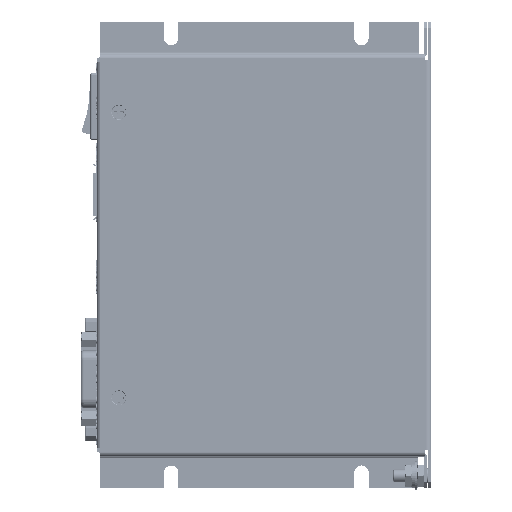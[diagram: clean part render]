
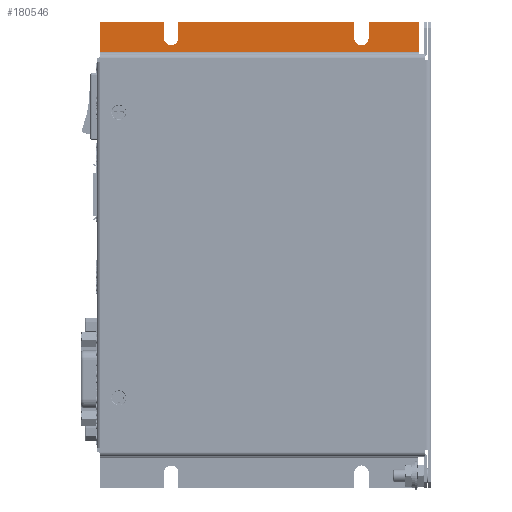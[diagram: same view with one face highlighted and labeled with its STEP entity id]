
A CAD part, top view. The second image highlights one B-rep face of the part: STEP entity #180546.
In plain terms, the highlighted planar face has unit normal (0, 0, 1).
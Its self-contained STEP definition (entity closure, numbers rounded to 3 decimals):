
#2835 = VECTOR ( 'NONE', #116361, 1000. ) ;
#9651 = LINE ( 'NONE', #76972, #49892 ) ;
#9965 = CARTESIAN_POINT ( 'NONE',  ( 23.503, 68.5, 1. ) ) ;
#10461 = CARTESIAN_POINT ( 'NONE',  ( 81.253, 73.5, 1. ) ) ;
#11495 = VERTEX_POINT ( 'NONE', #138670 ) ;
#11603 = VECTOR ( 'NONE', #56869, 1000. ) ;
#13659 = VERTEX_POINT ( 'NONE', #125975 ) ;
#13765 = DIRECTION ( 'NONE',  ( 0., 1., 0. ) ) ;
#13912 = EDGE_CURVE ( 'NONE', #20342, #58134, #177097, .T. ) ;
#15426 = DIRECTION ( 'NONE',  ( -1., 0., 0. ) ) ;
#17977 = ORIENTED_EDGE ( 'NONE', *, *, #25165, .F. ) ;
#18363 = CARTESIAN_POINT ( 'NONE',  ( 101.503, 73.5, 1. ) ) ;
#19349 = ORIENTED_EDGE ( 'NONE', *, *, #180053, .T. ) ;
#20342 = VERTEX_POINT ( 'NONE', #10461 ) ;
#20437 = VECTOR ( 'NONE', #45858, 1000. ) ;
#22478 = DIRECTION ( 'NONE',  ( 0., 0., -1. ) ) ;
#22976 = LINE ( 'NONE', #18363, #2835 ) ;
#25165 = EDGE_CURVE ( 'NONE', #33420, #161809, #94406, .T. ) ;
#27617 = ORIENTED_EDGE ( 'NONE', *, *, #125746, .T. ) ;
#32121 = CARTESIAN_POINT ( 'NONE',  ( 101.503, 73.5, 1. ) ) ;
#32298 = VERTEX_POINT ( 'NONE', #107120 ) ;
#32615 = ORIENTED_EDGE ( 'NONE', *, *, #53395, .T. ) ;
#33420 = VERTEX_POINT ( 'NONE', #132303 ) ;
#34247 = EDGE_CURVE ( 'NONE', #138133, #32298, #180013, .T. ) ;
#36109 = LINE ( 'NONE', #42488, #11603 ) ;
#38493 = VECTOR ( 'NONE', #130275, 1000. ) ;
#39738 = FACE_OUTER_BOUND ( 'NONE', #93717, .T. ) ;
#40093 = DIRECTION ( 'NONE',  ( -1., 0., 0. ) ) ;
#42488 = CARTESIAN_POINT ( 'NONE',  ( 21.253, 68.5, 1. ) ) ;
#44384 = EDGE_CURVE ( 'NONE', #169499, #13659, #9651, .T. ) ;
#45255 = CARTESIAN_POINT ( 'NONE',  ( 1.003, 73.5, 1. ) ) ;
#45715 = VERTEX_POINT ( 'NONE', #184245 ) ;
#45858 = DIRECTION ( 'NONE',  ( 0., -1., 0. ) ) ;
#49892 = VECTOR ( 'NONE', #176984, 1000. ) ;
#53395 = EDGE_CURVE ( 'NONE', #45715, #20342, #109362, .T. ) ;
#54538 = ORIENTED_EDGE ( 'NONE', *, *, #44384, .T. ) ;
#56869 = DIRECTION ( 'NONE',  ( 0., 1., 0. ) ) ;
#58134 = VERTEX_POINT ( 'NONE', #113948 ) ;
#59054 = DIRECTION ( 'NONE',  ( 0., 0., -1. ) ) ;
#62509 = EDGE_CURVE ( 'NONE', #77962, #11495, #179544, .T. ) ;
#64208 = AXIS2_PLACEMENT_3D ( 'NONE', #72850, #59054, #15426 ) ;
#65472 = EDGE_CURVE ( 'NONE', #32298, #161809, #154513, .T. ) ;
#68219 = CARTESIAN_POINT ( 'NONE',  ( 101.503, 73.5, 1. ) ) ;
#68613 = DIRECTION ( 'NONE',  ( 0., 0., 1. ) ) ;
#72831 = CARTESIAN_POINT ( 'NONE',  ( 101.503, 64., 1. ) ) ;
#72850 = CARTESIAN_POINT ( 'NONE',  ( 83.503, 68.5, 1. ) ) ;
#76194 = CARTESIAN_POINT ( 'NONE',  ( 1.003, 64., 1. ) ) ;
#76972 = CARTESIAN_POINT ( 'NONE',  ( 85.753, 73.5, 1. ) ) ;
#77176 = ORIENTED_EDGE ( 'NONE', *, *, #13912, .T. ) ;
#77962 = VERTEX_POINT ( 'NONE', #169308 ) ;
#82116 = CARTESIAN_POINT ( 'NONE',  ( 101.503, 73.5, 1. ) ) ;
#84194 = CARTESIAN_POINT ( 'NONE',  ( 101.503, 73.5, 1. ) ) ;
#86573 = ORIENTED_EDGE ( 'NONE', *, *, #62509, .T. ) ;
#91170 = DIRECTION ( 'NONE',  ( 0., 1., 0. ) ) ;
#93717 = EDGE_LOOP ( 'NONE', ( #54538, #27617, #32615, #77176, #19349, #86573, #102865, #166386, #151905, #17977, #127408, #106754 ) ) ;
#94240 = DIRECTION ( 'NONE',  ( -1., 0., 0. ) ) ;
#94406 = LINE ( 'NONE', #72831, #148064 ) ;
#98857 = EDGE_CURVE ( 'NONE', #33420, #100195, #142612, .T. ) ;
#99271 = CARTESIAN_POINT ( 'NONE',  ( 81.253, 68.5, 1. ) ) ;
#100195 = VERTEX_POINT ( 'NONE', #82116 ) ;
#102865 = ORIENTED_EDGE ( 'NONE', *, *, #135524, .T. ) ;
#106754 = ORIENTED_EDGE ( 'NONE', *, *, #184871, .T. ) ;
#107120 = CARTESIAN_POINT ( 'NONE',  ( 1.003, 73.5, 1. ) ) ;
#109362 = LINE ( 'NONE', #99271, #127348 ) ;
#111691 = DIRECTION ( 'NONE',  ( 1., 0., 0. ) ) ;
#113948 = CARTESIAN_POINT ( 'NONE',  ( 25.753, 73.5, 1. ) ) ;
#116166 = CARTESIAN_POINT ( 'NONE',  ( 25.753, 73.5, 1. ) ) ;
#116361 = DIRECTION ( 'NONE',  ( -1., 0., 0. ) ) ;
#124206 = CARTESIAN_POINT ( 'NONE',  ( 85.753, 73.5, 1. ) ) ;
#125746 = EDGE_CURVE ( 'NONE', #13659, #45715, #173227, .T. ) ;
#125975 = CARTESIAN_POINT ( 'NONE',  ( 85.753, 68.5, 1. ) ) ;
#127348 = VECTOR ( 'NONE', #13765, 1000. ) ;
#127408 = ORIENTED_EDGE ( 'NONE', *, *, #98857, .T. ) ;
#130175 = AXIS2_PLACEMENT_3D ( 'NONE', #9965, #22478, #94240 ) ;
#130275 = DIRECTION ( 'NONE',  ( -1., 0., 0. ) ) ;
#132303 = CARTESIAN_POINT ( 'NONE',  ( 101.503, 64., 1. ) ) ;
#135524 = EDGE_CURVE ( 'NONE', #11495, #138133, #36109, .T. ) ;
#138133 = VERTEX_POINT ( 'NONE', #155916 ) ;
#138670 = CARTESIAN_POINT ( 'NONE',  ( 21.253, 68.5, 1. ) ) ;
#142016 = VECTOR ( 'NONE', #40093, 1000. ) ;
#142612 = LINE ( 'NONE', #147478, #167210 ) ;
#142659 = VECTOR ( 'NONE', #170685, 1000. ) ;
#145301 = DIRECTION ( 'NONE',  ( -1., 0., 0. ) ) ;
#147478 = CARTESIAN_POINT ( 'NONE',  ( 101.503, 73.5, 1. ) ) ;
#148064 = VECTOR ( 'NONE', #145301, 1000. ) ;
#151905 = ORIENTED_EDGE ( 'NONE', *, *, #65472, .T. ) ;
#154513 = LINE ( 'NONE', #45255, #20437 ) ;
#155916 = CARTESIAN_POINT ( 'NONE',  ( 21.253, 73.5, 1. ) ) ;
#161809 = VERTEX_POINT ( 'NONE', #76194 ) ;
#166386 = ORIENTED_EDGE ( 'NONE', *, *, #34247, .T. ) ;
#167210 = VECTOR ( 'NONE', #91170, 1000. ) ;
#169308 = CARTESIAN_POINT ( 'NONE',  ( 25.753, 68.5, 1. ) ) ;
#169499 = VERTEX_POINT ( 'NONE', #124206 ) ;
#170685 = DIRECTION ( 'NONE',  ( 0., -1., 0. ) ) ;
#171089 = PLANE ( 'NONE',  #176611 ) ;
#173227 = CIRCLE ( 'NONE', #64208, 2.25 ) ;
#176196 = LINE ( 'NONE', #116166, #142659 ) ;
#176611 = AXIS2_PLACEMENT_3D ( 'NONE', #84194, #68613, #111691 ) ;
#176984 = DIRECTION ( 'NONE',  ( 0., -1., 0. ) ) ;
#177097 = LINE ( 'NONE', #32121, #38493 ) ;
#179544 = CIRCLE ( 'NONE', #130175, 2.25 ) ;
#180013 = LINE ( 'NONE', #68219, #142016 ) ;
#180053 = EDGE_CURVE ( 'NONE', #58134, #77962, #176196, .T. ) ;
#180546 = ADVANCED_FACE ( 'NONE', ( #39738 ), #171089, .T. ) ;
#184245 = CARTESIAN_POINT ( 'NONE',  ( 81.253, 68.5, 1. ) ) ;
#184871 = EDGE_CURVE ( 'NONE', #100195, #169499, #22976, .T. ) ;
